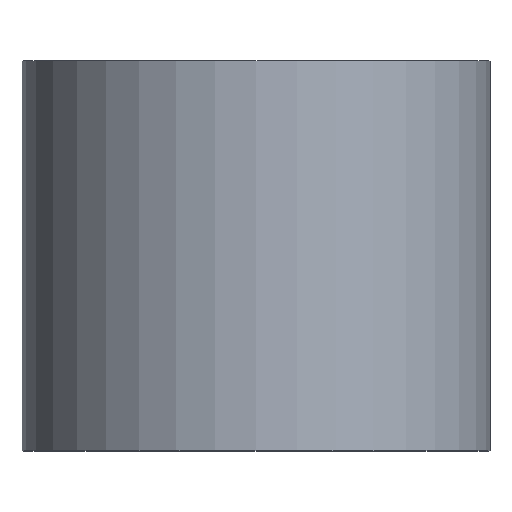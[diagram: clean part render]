
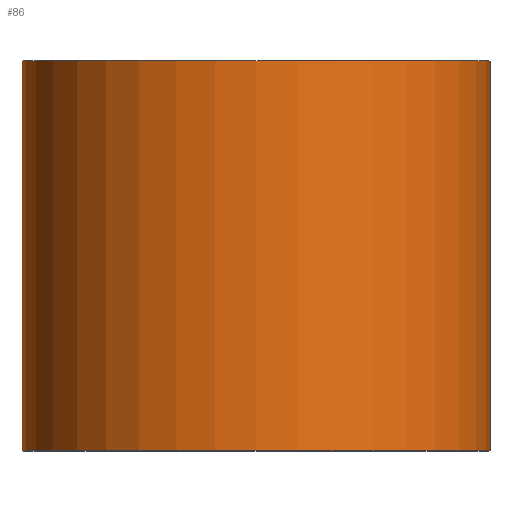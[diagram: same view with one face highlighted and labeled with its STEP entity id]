
A CAD part, top view. The second image highlights one B-rep face of the part: STEP entity #86.
In plain terms, the highlighted cylindrical face has radius 6 mm (diameter 12 mm), a partial arc.
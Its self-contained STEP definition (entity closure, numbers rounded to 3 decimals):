
#2 = CARTESIAN_POINT ( 'NONE',  ( 6., 0., 0. ) ) ;
#4 = CIRCLE ( 'NONE', #61, 6. ) ;
#24 = ORIENTED_EDGE ( 'NONE', *, *, #273, .T. ) ;
#25 = DIRECTION ( 'NONE',  ( -1., 0., 0. ) ) ;
#26 = CARTESIAN_POINT ( 'NONE',  ( -6., 0., 0. ) ) ;
#36 = AXIS2_PLACEMENT_3D ( 'NONE', #257, #48, #163 ) ;
#37 = LINE ( 'NONE', #26, #116 ) ;
#38 = ORIENTED_EDGE ( 'NONE', *, *, #89, .F. ) ;
#48 = DIRECTION ( 'NONE',  ( 0., 1., 0. ) ) ;
#51 = ORIENTED_EDGE ( 'NONE', *, *, #253, .T. ) ;
#61 = AXIS2_PLACEMENT_3D ( 'NONE', #164, #114, #25 ) ;
#62 = VECTOR ( 'NONE', #144, 1000. ) ;
#72 = EDGE_CURVE ( 'NONE', #256, #218, #4, .T. ) ;
#76 = CARTESIAN_POINT ( 'NONE',  ( -6., 0., 0. ) ) ;
#79 = AXIS2_PLACEMENT_3D ( 'NONE', #241, #272, #102 ) ;
#86 = ADVANCED_FACE ( 'NONE', ( #156 ), #274, .T. ) ;
#89 = EDGE_CURVE ( 'NONE', #157, #256, #37, .T. ) ;
#92 = VERTEX_POINT ( 'NONE', #2 ) ;
#102 = DIRECTION ( 'NONE',  ( -1., 0., 0. ) ) ;
#114 = DIRECTION ( 'NONE',  ( 0., 1., 0. ) ) ;
#116 = VECTOR ( 'NONE', #230, 1000. ) ;
#144 = DIRECTION ( 'NONE',  ( 0., 1., 0. ) ) ;
#156 = FACE_OUTER_BOUND ( 'NONE', #278, .T. ) ;
#157 = VERTEX_POINT ( 'NONE', #76 ) ;
#163 = DIRECTION ( 'NONE',  ( -1., 0., 0. ) ) ;
#164 = CARTESIAN_POINT ( 'NONE',  ( 0., 10., 0. ) ) ;
#190 = CIRCLE ( 'NONE', #79, 6. ) ;
#191 = CARTESIAN_POINT ( 'NONE',  ( 6., 10., 0. ) ) ;
#214 = CARTESIAN_POINT ( 'NONE',  ( -6., 10., 0. ) ) ;
#215 = CARTESIAN_POINT ( 'NONE',  ( 6., 0., 0. ) ) ;
#218 = VERTEX_POINT ( 'NONE', #191 ) ;
#220 = LINE ( 'NONE', #215, #62 ) ;
#230 = DIRECTION ( 'NONE',  ( 0., 1., 0. ) ) ;
#241 = CARTESIAN_POINT ( 'NONE',  ( 0., 0., 0. ) ) ;
#253 = EDGE_CURVE ( 'NONE', #92, #218, #220, .T. ) ;
#256 = VERTEX_POINT ( 'NONE', #214 ) ;
#257 = CARTESIAN_POINT ( 'NONE',  ( 0., 0., 0. ) ) ;
#272 = DIRECTION ( 'NONE',  ( 0., 1., 0. ) ) ;
#273 = EDGE_CURVE ( 'NONE', #157, #92, #190, .T. ) ;
#274 = CYLINDRICAL_SURFACE ( 'NONE', #36, 6. ) ;
#278 = EDGE_LOOP ( 'NONE', ( #24, #51, #293, #38 ) ) ;
#293 = ORIENTED_EDGE ( 'NONE', *, *, #72, .F. ) ;
